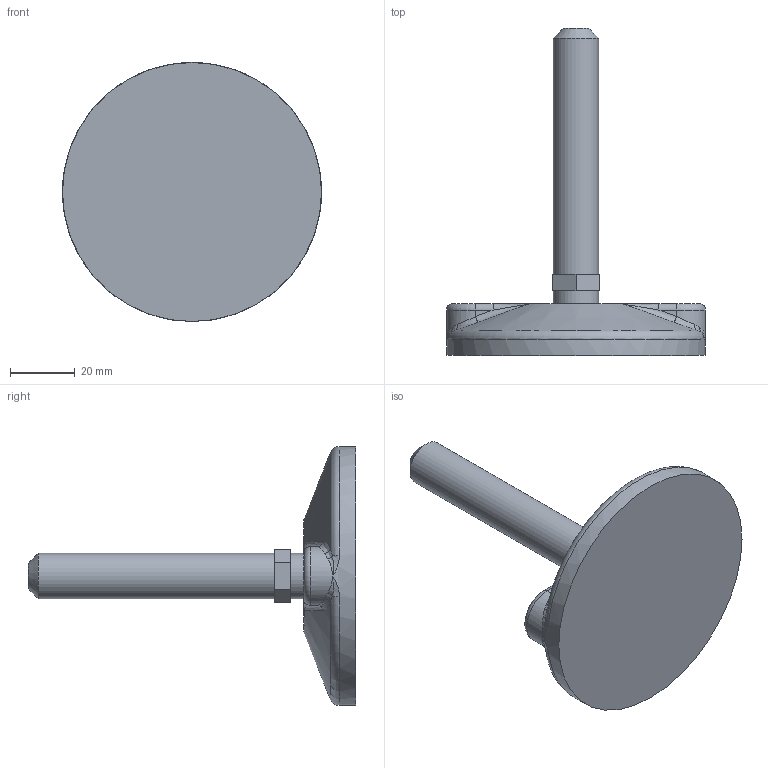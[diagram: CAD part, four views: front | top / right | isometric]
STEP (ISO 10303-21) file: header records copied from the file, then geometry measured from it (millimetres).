
FILE_DESCRIPTION (( 'STEP AP214' ), '1' );
FILE_NAME ('F21802.step', '2024-12-03T16:15:33', ( '' ), ( '' ), 'SwSTEP 2.0', 'SolidWorks 2023', '' );
FILE_SCHEMA (( 'AUTOMOTIVE_DESIGN' ));
Length unit declared in the file: millimetre
Products named in the file (1): F21802
Bounding box: 80 x 101 x 80 mm (x, y, z)
Volume: 75800.7 mm3; surface area: 16161.9 mm2
Topology: 1 solids, 1 shells, 57 faces, 133 edges, 73 vertices
Faces by surface type: bspline 24, plane 15, cylinder 9, torus 6, cone 3
Full cylindrical faces by diameter (mm): 14 x2, 80 x1
Entity records: 2395 total; most frequent: CARTESIAN_POINT 1298, ORIENTED_EDGE 240, DIRECTION 190, EDGE_CURVE 120, AXIS2_PLACEMENT_3D 80, VERTEX_POINT 72, EDGE_LOOP 64, FACE_OUTER_BOUND 60
